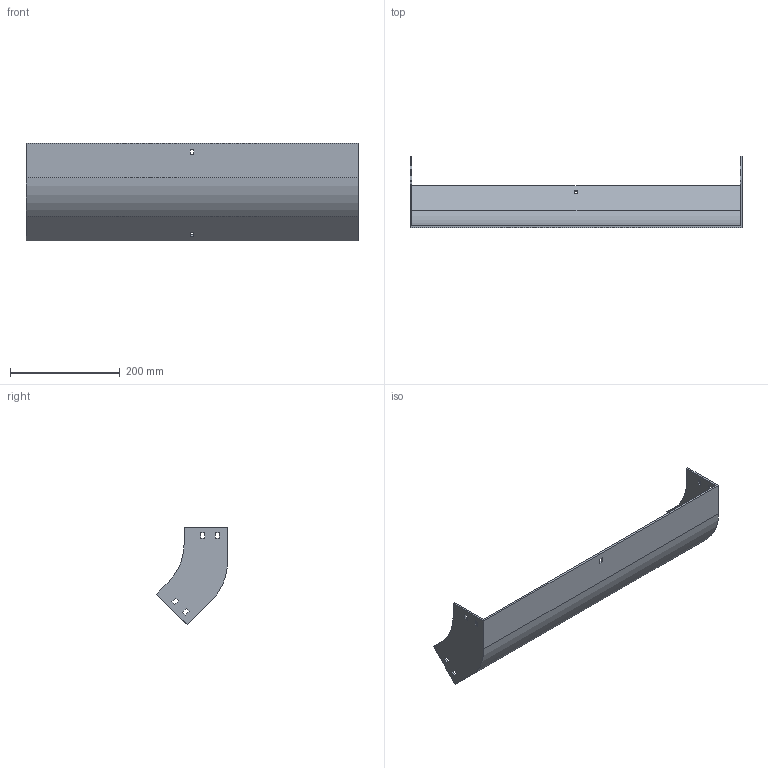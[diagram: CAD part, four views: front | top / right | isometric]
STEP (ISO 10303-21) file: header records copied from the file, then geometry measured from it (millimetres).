
FILE_DESCRIPTION (( 'STEP AP214' ), '1' );
FILE_NAME ('31F1C600.step', '2025-02-21T13:00:55', ( '' ), ( '' ), 'SwSTEP 2.0', 'SolidWorks 2023', '' );
FILE_SCHEMA (( 'AUTOMOTIVE_DESIGN' ));
Length unit declared in the file: millimetre
Products named in the file (1): 31F1C600
Bounding box: 604 x 129.5 x 177.79 mm (x, y, z)
Volume: 518074.2 mm3; surface area: 303475.8 mm2
Topology: 1 solids, 1 shells, 58 faces, 168 edges, 112 vertices
Faces by surface type: plane 54, cylinder 4
Entity records: 1943 total; most frequent: CARTESIAN_POINT 339, ORIENTED_EDGE 336, DIRECTION 294, EDGE_CURVE 168, LINE 160, VECTOR 160, VERTEX_POINT 112, EDGE_LOOP 78
